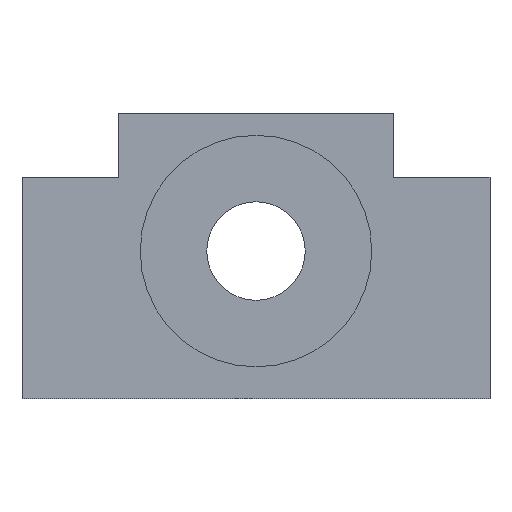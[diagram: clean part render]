
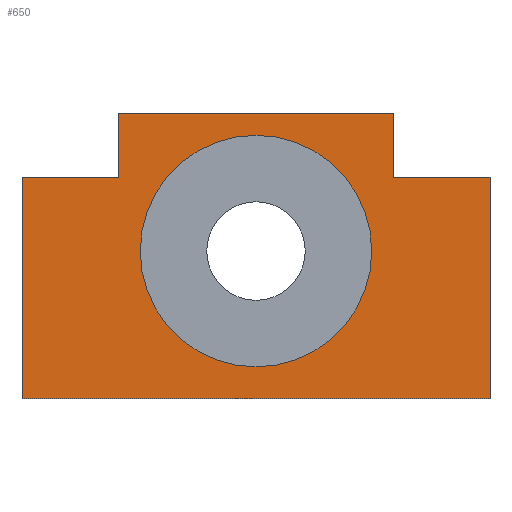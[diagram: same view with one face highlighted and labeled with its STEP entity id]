
A CAD part, left-side view. The second image highlights one B-rep face of the part: STEP entity #650.
In plain terms, the highlighted planar face has unit normal (-1, 0, 0).
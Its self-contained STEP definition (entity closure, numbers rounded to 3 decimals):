
#360=CARTESIAN_POINT('',(0.0,23.5,0.));
#361=VERTEX_POINT('',#360);
#362=CARTESIAN_POINT('',(0.0,0.0,0.0));
#363=DIRECTION('',(1.0,0.0,0.0));
#364=DIRECTION('',(0.0,-1.0,0.0));
#365=AXIS2_PLACEMENT_3D('',#362,#363,#364);
#366=CIRCLE('',#365,23.5);
#367=EDGE_CURVE('',#361,#361,#366,.T.);
#387=CARTESIAN_POINT('',(0.0,-47.5,15.));
#388=VERTEX_POINT('',#387);
#395=CARTESIAN_POINT('',(0.0,-47.5,-30.));
#396=VERTEX_POINT('',#395);
#397=CARTESIAN_POINT('',(0.0,-47.5,15.));
#398=DIRECTION('',(0.0,0.0,-1.0));
#399=VECTOR('',#398,45.);
#400=LINE('',#397,#399);
#401=EDGE_CURVE('',#388,#396,#400,.T.);
#425=CARTESIAN_POINT('',(0.0,-28.,15.));
#426=VERTEX_POINT('',#425);
#433=CARTESIAN_POINT('',(0.0,-28.,15.));
#434=DIRECTION('',(0.0,-1.0,0.0));
#435=VECTOR('',#434,19.5);
#436=LINE('',#433,#435);
#437=EDGE_CURVE('',#426,#388,#436,.T.);
#459=CARTESIAN_POINT('',(0.0,-28.,28.));
#460=VERTEX_POINT('',#459);
#467=CARTESIAN_POINT('',(0.0,-28.,28.));
#468=DIRECTION('',(0.0,0.0,-1.0));
#469=VECTOR('',#468,13.);
#470=LINE('',#467,#469);
#471=EDGE_CURVE('',#460,#426,#470,.T.);
#490=CARTESIAN_POINT('',(0.0,28.,28.));
#491=VERTEX_POINT('',#490);
#498=CARTESIAN_POINT('',(0.0,28.,28.));
#499=DIRECTION('',(0.0,-1.0,0.0));
#500=VECTOR('',#499,56.);
#501=LINE('',#498,#500);
#502=EDGE_CURVE('',#491,#460,#501,.T.);
#521=CARTESIAN_POINT('',(0.0,28.,15.));
#522=VERTEX_POINT('',#521);
#529=CARTESIAN_POINT('',(0.0,28.,15.));
#530=DIRECTION('',(0.0,0.0,1.0));
#531=VECTOR('',#530,13.);
#532=LINE('',#529,#531);
#533=EDGE_CURVE('',#522,#491,#532,.T.);
#552=CARTESIAN_POINT('',(0.0,47.5,15.));
#553=VERTEX_POINT('',#552);
#560=CARTESIAN_POINT('',(0.0,47.5,15.));
#561=DIRECTION('',(0.0,-1.0,0.0));
#562=VECTOR('',#561,19.5);
#563=LINE('',#560,#562);
#564=EDGE_CURVE('',#553,#522,#563,.T.);
#586=CARTESIAN_POINT('',(0.0,47.5,-30.));
#587=VERTEX_POINT('',#586);
#594=CARTESIAN_POINT('',(0.0,47.5,-30.));
#595=DIRECTION('',(0.0,0.0,1.0));
#596=VECTOR('',#595,45.);
#597=LINE('',#594,#596);
#598=EDGE_CURVE('',#587,#553,#597,.T.);
#616=CARTESIAN_POINT('',(0.0,-47.5,-30.));
#617=DIRECTION('',(0.0,1.0,0.0));
#618=VECTOR('',#617,95.);
#619=LINE('',#616,#618);
#620=EDGE_CURVE('',#396,#587,#619,.T.);
#632=CARTESIAN_POINT('',(0.0,0.,-2.657));
#633=DIRECTION('',(1.0,0.0,0.0));
#634=DIRECTION('',(0.0,0.0,-1.0));
#635=AXIS2_PLACEMENT_3D('',#632,#633,#634);
#636=PLANE('',#635);
#637=ORIENTED_EDGE('',*,*,#620,.F.);
#638=ORIENTED_EDGE('',*,*,#401,.F.);
#639=ORIENTED_EDGE('',*,*,#437,.F.);
#640=ORIENTED_EDGE('',*,*,#471,.F.);
#641=ORIENTED_EDGE('',*,*,#502,.F.);
#642=ORIENTED_EDGE('',*,*,#533,.F.);
#643=ORIENTED_EDGE('',*,*,#564,.F.);
#644=ORIENTED_EDGE('',*,*,#598,.F.);
#645=EDGE_LOOP('',(#637,#638,#639,#640,#641,#642,#643,#644));
#646=FACE_OUTER_BOUND('',#645,.T.);
#647=ORIENTED_EDGE('',*,*,#367,.T.);
#648=EDGE_LOOP('',(#647));
#649=FACE_BOUND('',#648,.T.);
#650=ADVANCED_FACE('',(#646,#649),#636,.F.);
